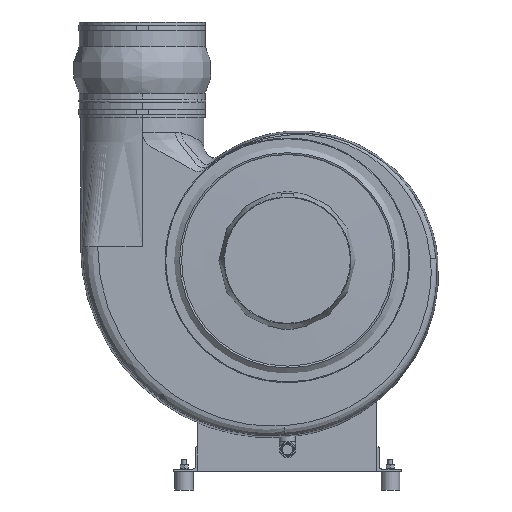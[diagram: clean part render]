
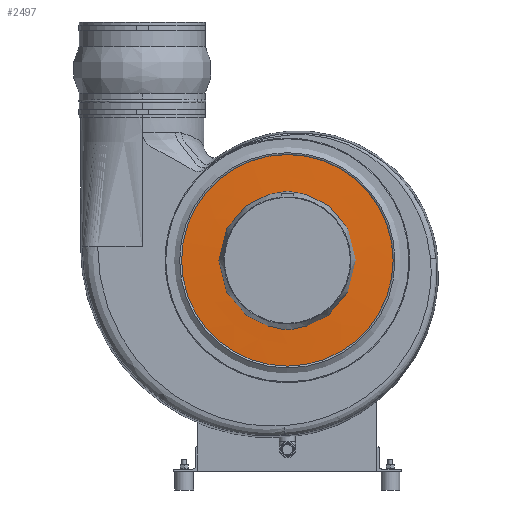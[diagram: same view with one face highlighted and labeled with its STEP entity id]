
A CAD part, front view. The second image highlights one B-rep face of the part: STEP entity #2497.
In plain terms, the highlighted conical face has half-angle 87.858 degrees and reference radius 135.667 mm.
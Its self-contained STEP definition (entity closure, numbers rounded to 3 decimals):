
#2497 = ADVANCED_FACE( '', ( #5813, #5814 ), #5815, .T. );
#5813 = FACE_BOUND( '', #12664, .T. );
#5814 = FACE_OUTER_BOUND( '', #12665, .T. );
#5815 = CONICAL_SURFACE( '', #12666, 135.667, 1.533 );
#12664 = EDGE_LOOP( '', ( #39607 ) );
#12665 = EDGE_LOOP( '', ( #39608 ) );
#12666 = AXIS2_PLACEMENT_3D( '', #39609, #39610, #39611 );
#39607 = ORIENTED_EDGE( '', *, *, #48974, .F. );
#39608 = ORIENTED_EDGE( '', *, *, #48975, .T. );
#39609 = CARTESIAN_POINT( '', ( 41.334, 0., 0. ) );
#39610 = DIRECTION( '', ( 1., 0., 0. ) );
#39611 = DIRECTION( '', ( 0., 0., -1. ) );
#48974 = EDGE_CURVE( '', #53986, #53986, #53987, .T. );
#48975 = EDGE_CURVE( '', #53988, #53988, #53989, .T. );
#53986 = VERTEX_POINT( '', #62729 );
#53987 = CIRCLE( '', #62730, 100. );
#53988 = VERTEX_POINT( '', #62731 );
#53989 = CIRCLE( '', #62732, 171.333 );
#62729 = CARTESIAN_POINT( '', ( 40., 0., 100. ) );
#62730 = AXIS2_PLACEMENT_3D( '', #74914, #74915, #74916 );
#62731 = CARTESIAN_POINT( '', ( 42.669, 0., 171.333 ) );
#62732 = AXIS2_PLACEMENT_3D( '', #74917, #74918, #74919 );
#74914 = CARTESIAN_POINT( '', ( 40., 0., 0. ) );
#74915 = DIRECTION( '', ( -1., 0., 0. ) );
#74916 = DIRECTION( '', ( 0., 0., 1. ) );
#74917 = CARTESIAN_POINT( '', ( 42.669, 0., 0. ) );
#74918 = DIRECTION( '', ( -1., 0., 0. ) );
#74919 = DIRECTION( '', ( 0., 0., 1. ) );
